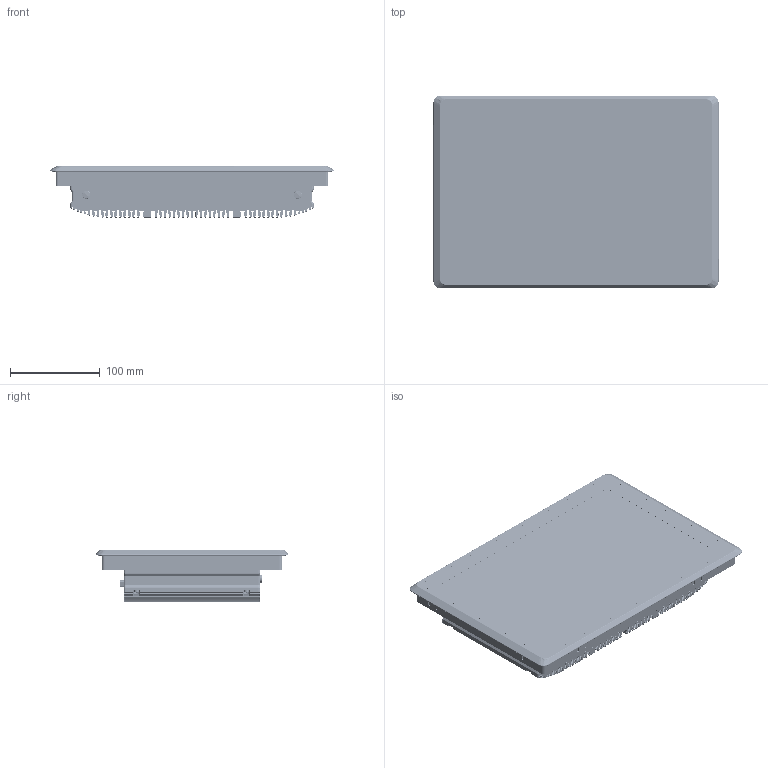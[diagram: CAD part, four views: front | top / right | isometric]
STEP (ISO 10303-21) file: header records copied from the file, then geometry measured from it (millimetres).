
FILE_DESCRIPTION((''),'2;1');
FILE_NAME('FPM-1201W-20250228','2025-08-02T22:58:42',('anthony'),(''),'CREO PARAMETRIC BY PTC INC, 2024063','CREO PARAMETRIC BY PTC INC, 2024063','');
FILE_SCHEMA(('CONFIG_CONTROL_DESIGN','SHAPE_APPEARANCE_LAYERS_GROUPS'));
Products named in the file (1): FPM-1201W-20250228
Bounding box: 318 x 215.1 x 57.18 mm (x, y, z)
Volume: 1362488.7 mm3; surface area: 638203.8 mm2
Topology: 36 solids, 66 shells, 6948 faces, 21824 edges, 15096 vertices
Faces by surface type: plane 3690, cylinder 2804, cone 264, torus 96, bspline 78, sphere 12, revolution 4
Entity records: 304780 total; most frequent: CARTESIAN_POINT 56609, ORIENTED_EDGE 43404, DIRECTION 40618, EDGE_CURVE 21768, VERTEX_POINT 15097, PRESENTATION_STYLE_ASSIGNMENT 14341, AXIS2_PLACEMENT_3D 14152, STYLED_ITEM 13974
